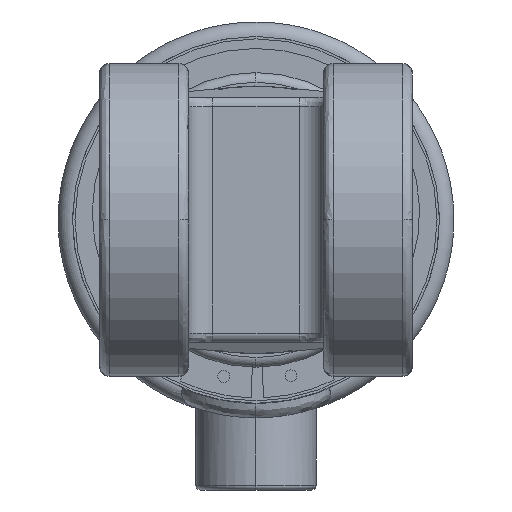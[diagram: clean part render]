
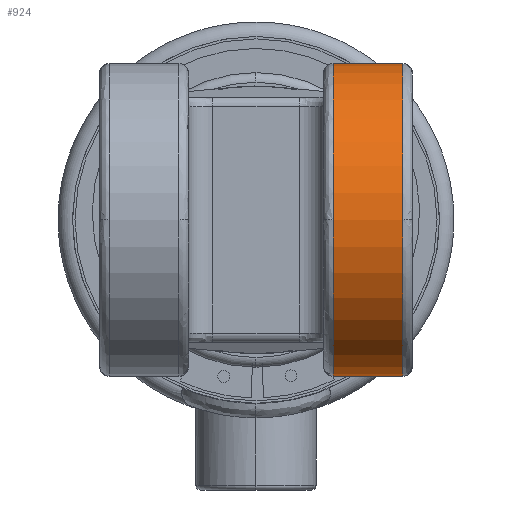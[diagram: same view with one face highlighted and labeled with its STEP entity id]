
A CAD part, left-side view. The second image highlights one B-rep face of the part: STEP entity #924.
In plain terms, the highlighted cylindrical face has radius 32.5 mm (diameter 65 mm), a partial arc.
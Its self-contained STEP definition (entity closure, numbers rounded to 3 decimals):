
#37 = VECTOR ( 'NONE', #3251, 1000. ) ;
#196 = EDGE_CURVE ( 'NONE', #10574, #10114, #8788, .T. ) ;
#375 = DIRECTION ( 'NONE',  ( 0., 1., 0. ) ) ;
#517 = EDGE_CURVE ( 'NONE', #10204, #3417, #2412, .T. ) ;
#733 = FACE_OUTER_BOUND ( 'NONE', #10047, .T. ) ;
#924 = ADVANCED_FACE ( 'NONE', ( #733 ), #5158, .T. ) ;
#1209 = DIRECTION ( 'NONE',  ( 0., 1., 0. ) ) ;
#1305 = CARTESIAN_POINT ( 'NONE',  ( 44.795, -16., 0. ) ) ;
#1745 = AXIS2_PLACEMENT_3D ( 'NONE', #5667, #375, #6564 ) ;
#2038 = ORIENTED_EDGE ( 'NONE', *, *, #8600, .F. ) ;
#2151 = ORIENTED_EDGE ( 'NONE', *, *, #7740, .T. ) ;
#2193 = DIRECTION ( 'NONE',  ( 1., 0., 0. ) ) ;
#2412 = LINE ( 'NONE', #8843, #37 ) ;
#2877 = CIRCLE ( 'NONE', #7905, 32.5 ) ;
#3135 = CARTESIAN_POINT ( 'NONE',  ( 44.795, -32.5, 0. ) ) ;
#3144 = EDGE_CURVE ( 'NONE', #10114, #3695, #4424, .T. ) ;
#3251 = DIRECTION ( 'NONE',  ( 0., 1., 0. ) ) ;
#3417 = VERTEX_POINT ( 'NONE', #8059 ) ;
#3639 = CARTESIAN_POINT ( 'NONE',  ( 44.795, -32.5, 32.5 ) ) ;
#3695 = VERTEX_POINT ( 'NONE', #7471 ) ;
#3953 = CARTESIAN_POINT ( 'NONE',  ( 44.795, -30.5, 0. ) ) ;
#4424 = CIRCLE ( 'NONE', #1745, 32.5 ) ;
#4587 = ORIENTED_EDGE ( 'NONE', *, *, #3144, .F. ) ;
#4622 = CARTESIAN_POINT ( 'NONE',  ( 77.295, -30.5, 0. ) ) ;
#4847 = DIRECTION ( 'NONE',  ( 0., 0., 1. ) ) ;
#5158 = CYLINDRICAL_SURFACE ( 'NONE', #8461, 32.5 ) ;
#5388 = AXIS2_PLACEMENT_3D ( 'NONE', #1305, #7480, #2193 ) ;
#5667 = CARTESIAN_POINT ( 'NONE',  ( 44.795, -16., 0. ) ) ;
#5798 = DIRECTION ( 'NONE',  ( 0., 0., 1. ) ) ;
#6484 = CARTESIAN_POINT ( 'NONE',  ( 44.795, -30.5, 0. ) ) ;
#6562 = ORIENTED_EDGE ( 'NONE', *, *, #196, .F. ) ;
#6564 = DIRECTION ( 'NONE',  ( 1., 0., 0. ) ) ;
#6860 = EDGE_CURVE ( 'NONE', #7699, #10204, #2877, .T. ) ;
#7120 = CARTESIAN_POINT ( 'NONE',  ( 44.795, -16., 32.5 ) ) ;
#7329 = DIRECTION ( 'NONE',  ( 0., 1., 0. ) ) ;
#7376 = DIRECTION ( 'NONE',  ( 0., 0., 1. ) ) ;
#7471 = CARTESIAN_POINT ( 'NONE',  ( 77.295, -16., 0. ) ) ;
#7480 = DIRECTION ( 'NONE',  ( 0., 1., 0. ) ) ;
#7699 = VERTEX_POINT ( 'NONE', #4622 ) ;
#7740 = EDGE_CURVE ( 'NONE', #10574, #7699, #8134, .T. ) ;
#7905 = AXIS2_PLACEMENT_3D ( 'NONE', #3953, #10164, #4847 ) ;
#8059 = CARTESIAN_POINT ( 'NONE',  ( 44.795, -16., -32.5 ) ) ;
#8134 = CIRCLE ( 'NONE', #9835, 32.5 ) ;
#8187 = CARTESIAN_POINT ( 'NONE',  ( 44.795, -30.5, -32.5 ) ) ;
#8461 = AXIS2_PLACEMENT_3D ( 'NONE', #3135, #10230, #5798 ) ;
#8600 = EDGE_CURVE ( 'NONE', #3695, #3417, #9918, .T. ) ;
#8788 = LINE ( 'NONE', #3639, #11121 ) ;
#8843 = CARTESIAN_POINT ( 'NONE',  ( 44.795, -32.5, -32.5 ) ) ;
#9565 = CARTESIAN_POINT ( 'NONE',  ( 44.795, -30.5, 32.5 ) ) ;
#9835 = AXIS2_PLACEMENT_3D ( 'NONE', #6484, #1209, #7376 ) ;
#9918 = CIRCLE ( 'NONE', #5388, 32.5 ) ;
#10047 = EDGE_LOOP ( 'NONE', ( #2151, #11299, #11345, #2038, #4587, #6562 ) ) ;
#10114 = VERTEX_POINT ( 'NONE', #7120 ) ;
#10164 = DIRECTION ( 'NONE',  ( 0., 1., 0. ) ) ;
#10204 = VERTEX_POINT ( 'NONE', #8187 ) ;
#10230 = DIRECTION ( 'NONE',  ( 0., 1., 0. ) ) ;
#10574 = VERTEX_POINT ( 'NONE', #9565 ) ;
#11121 = VECTOR ( 'NONE', #7329, 1000. ) ;
#11299 = ORIENTED_EDGE ( 'NONE', *, *, #6860, .T. ) ;
#11345 = ORIENTED_EDGE ( 'NONE', *, *, #517, .T. ) ;
